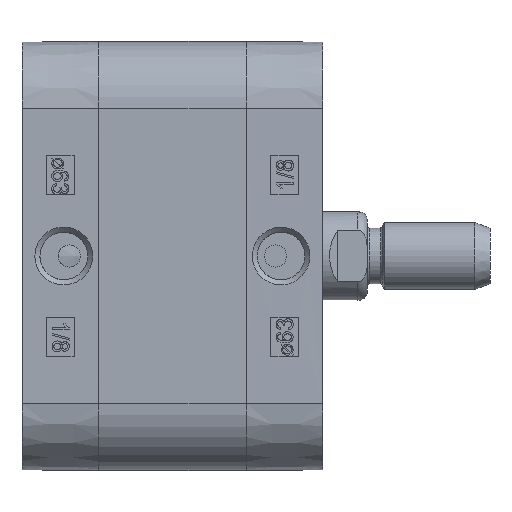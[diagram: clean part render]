
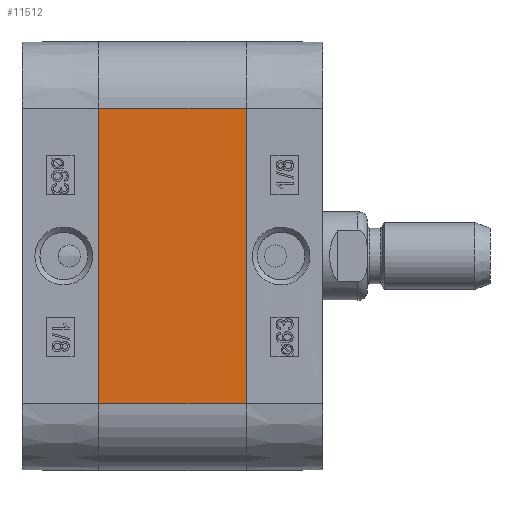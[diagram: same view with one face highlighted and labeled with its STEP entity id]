
A CAD part, left-side view. The second image highlights one B-rep face of the part: STEP entity #11512.
In plain terms, the highlighted planar face has unit normal (-1, 0, 0).
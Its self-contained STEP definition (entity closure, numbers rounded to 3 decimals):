
#5842=CARTESIAN_POINT('',(-38.5,-26.5,26.5));
#5843=VERTEX_POINT('',#5842);
#5850=CARTESIAN_POINT('',(-38.5,-26.5,-26.5));
#5851=VERTEX_POINT('',#5850);
#5852=CARTESIAN_POINT('',(-38.5,-26.5,-26.5));
#5853=DIRECTION('',(0.0,0.0,1.0));
#5854=VECTOR('',#5853,53.0);
#5855=LINE('',#5852,#5854);
#5856=EDGE_CURVE('',#5851,#5843,#5855,.T.);
#11470=CARTESIAN_POINT('',(-38.5,0.0,-26.5));
#11471=VERTEX_POINT('',#11470);
#11472=CARTESIAN_POINT('',(-38.5,0.0,-26.5));
#11473=DIRECTION('',(0.0,-1.0,0.0));
#11474=VECTOR('',#11473,26.5);
#11475=LINE('',#11472,#11474);
#11476=EDGE_CURVE('',#11471,#5851,#11475,.T.);
#11489=CARTESIAN_POINT('',(-38.5,0.0,-26.5));
#11490=DIRECTION('',(-1.0,0.0,0.0));
#11491=DIRECTION('',(0.0,0.0,1.0));
#11492=AXIS2_PLACEMENT_3D('',#11489,#11490,#11491);
#11493=PLANE('',#11492);
#11494=ORIENTED_EDGE('',*,*,#5856,.T.);
#11495=CARTESIAN_POINT('',(-38.5,0.0,26.5));
#11496=VERTEX_POINT('',#11495);
#11497=CARTESIAN_POINT('',(-38.5,0.0,26.5));
#11498=DIRECTION('',(0.0,-1.0,0.0));
#11499=VECTOR('',#11498,26.5);
#11500=LINE('',#11497,#11499);
#11501=EDGE_CURVE('',#11496,#5843,#11500,.T.);
#11502=ORIENTED_EDGE('',*,*,#11501,.F.);
#11503=CARTESIAN_POINT('',(-38.5,0.0,-26.5));
#11504=DIRECTION('',(0.0,0.0,1.0));
#11505=VECTOR('',#11504,53.0);
#11506=LINE('',#11503,#11505);
#11507=EDGE_CURVE('',#11471,#11496,#11506,.T.);
#11508=ORIENTED_EDGE('',*,*,#11507,.F.);
#11509=ORIENTED_EDGE('',*,*,#11476,.T.);
#11510=EDGE_LOOP('',(#11494,#11502,#11508,#11509));
#11511=FACE_OUTER_BOUND('',#11510,.T.);
#11512=ADVANCED_FACE('',(#11511),#11493,.T.);
